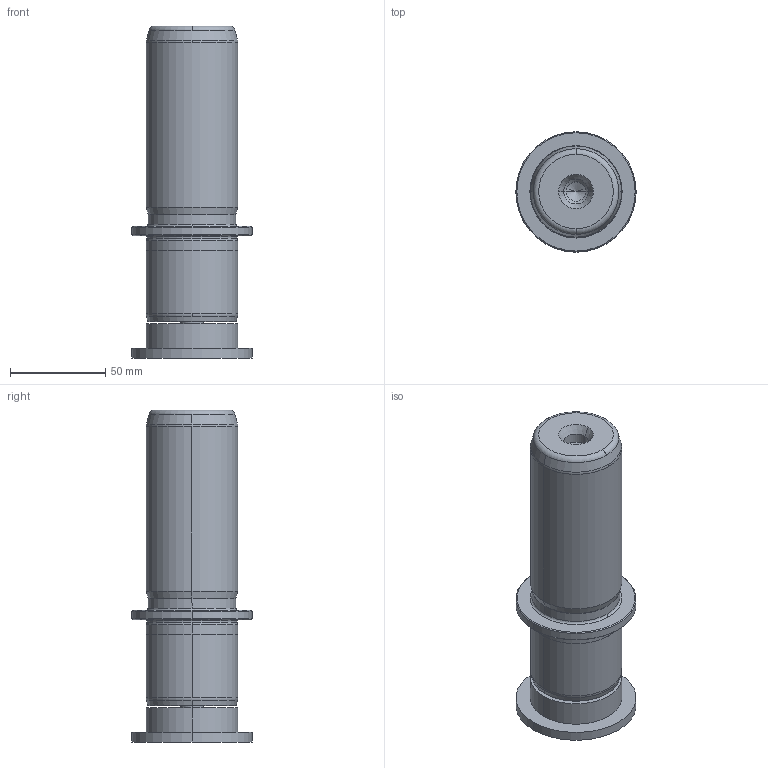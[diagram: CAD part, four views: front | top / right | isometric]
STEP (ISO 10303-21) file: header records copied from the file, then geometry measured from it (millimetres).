
FILE_DESCRIPTION((''),'2;1');
FILE_NAME('P22_048_110.stp','2009-11-02T10:33:41',(''),(''),'Mechanical Desktop 2009','Mechanical Desktop 2009',', , ');
FILE_SCHEMA(('CONFIG_CONTROL_DESIGN'));
Length unit declared in the file: millimetre
Products named in the file (2): Product; blmdl1
Assembly tree (1 placements, depth 2):
  Product
    blmdl1
Bounding box: 63 x 63 x 174 mm (x, y, z)
Volume: 316790.2 mm3; surface area: 44068.4 mm2
Topology: 3 solids, 3 shells, 99 faces, 237 edges, 149 vertices
Faces by surface type: cylinder 32, cone 28, plane 19, torus 10, bspline 10
Entity records: 3419 total; most frequent: CARTESIAN_POINT 923, DIRECTION 570, ORIENTED_EDGE 466, AXIS2_PLACEMENT_3D 246, EDGE_CURVE 233, CIRCLE 155, VERTEX_POINT 149, EDGE_LOOP 110
